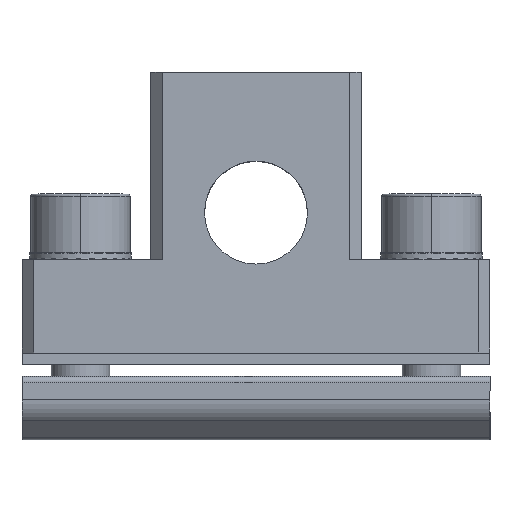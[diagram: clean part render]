
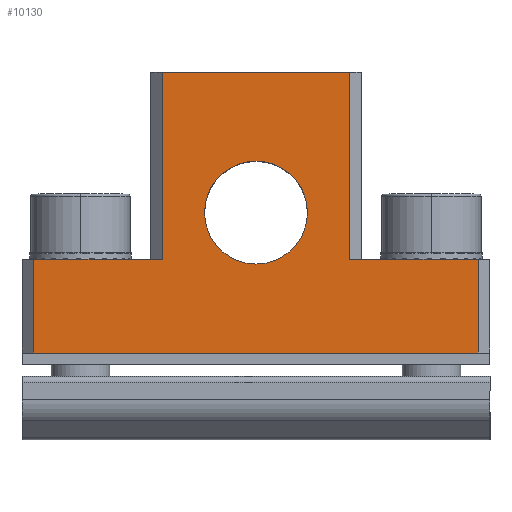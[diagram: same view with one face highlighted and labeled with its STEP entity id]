
A CAD part, top view. The second image highlights one B-rep face of the part: STEP entity #10130.
In plain terms, the highlighted planar face has unit normal (0, 0, 1).
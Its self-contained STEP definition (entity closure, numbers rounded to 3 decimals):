
#101 = ORIENTED_EDGE ( 'NONE', *, *, #17336, .T. ) ;
#133 = CARTESIAN_POINT ( 'NONE',  ( -60.559, 16.468, 7.5 ) ) ;
#525 = DIRECTION ( 'NONE',  ( -1., 0., 0. ) ) ;
#608 = CARTESIAN_POINT ( 'NONE',  ( -49.559, 28.468, 7.5 ) ) ;
#629 = CARTESIAN_POINT ( 'NONE',  ( -41.559, 28.468, 7.5 ) ) ;
#1057 = VECTOR ( 'NONE', #17490, 1000. ) ;
#1075 = VERTEX_POINT ( 'NONE', #2844 ) ;
#1933 = VERTEX_POINT ( 'NONE', #9643 ) ;
#2248 = LINE ( 'NONE', #4158, #4326 ) ;
#2492 = DIRECTION ( 'NONE',  ( 0., -1., 0. ) ) ;
#2844 = CARTESIAN_POINT ( 'NONE',  ( -22.559, 16.468, 7.5 ) ) ;
#3904 = DIRECTION ( 'NONE',  ( 1., 0., 0. ) ) ;
#3909 = DIRECTION ( 'NONE',  ( 1., 0., 0. ) ) ;
#3981 = EDGE_CURVE ( 'NONE', #8886, #22662, #13678, .T. ) ;
#4149 = DIRECTION ( 'NONE',  ( 1., 0., 0. ) ) ;
#4158 = CARTESIAN_POINT ( 'NONE',  ( -41.559, 40.468, 7.5 ) ) ;
#4161 = CARTESIAN_POINT ( 'NONE',  ( -37.159, 28.468, 7.5 ) ) ;
#4326 = VECTOR ( 'NONE', #3909, 1000. ) ;
#4342 = CIRCLE ( 'NONE', #5968, 4.4 ) ;
#4634 = LINE ( 'NONE', #608, #5226 ) ;
#5226 = VECTOR ( 'NONE', #2492, 1000. ) ;
#5408 = VECTOR ( 'NONE', #21051, 1000. ) ;
#5968 = AXIS2_PLACEMENT_3D ( 'NONE', #629, #16130, #23867 ) ;
#5972 = CARTESIAN_POINT ( 'NONE',  ( -41.559, 24.468, 7.5 ) ) ;
#6064 = DIRECTION ( 'NONE',  ( 0., 0., 1. ) ) ;
#6346 = VECTOR ( 'NONE', #525, 1000. ) ;
#7013 = CARTESIAN_POINT ( 'NONE',  ( -41.559, 24.468, 7.5 ) ) ;
#7134 = CARTESIAN_POINT ( 'NONE',  ( -33.559, 24.468, 7.5 ) ) ;
#7503 = VERTEX_POINT ( 'NONE', #12675 ) ;
#7744 = FACE_BOUND ( 'NONE', #24544, .T. ) ;
#8038 = DIRECTION ( 'NONE',  ( 0., 1., 0. ) ) ;
#8295 = DIRECTION ( 'NONE',  ( 0., 1., 0. ) ) ;
#8435 = ORIENTED_EDGE ( 'NONE', *, *, #22314, .T. ) ;
#8637 = LINE ( 'NONE', #7013, #9150 ) ;
#8886 = VERTEX_POINT ( 'NONE', #21521 ) ;
#9150 = VECTOR ( 'NONE', #16145, 1000. ) ;
#9325 = VERTEX_POINT ( 'NONE', #10272 ) ;
#9385 = AXIS2_PLACEMENT_3D ( 'NONE', #21342, #6064, #3904 ) ;
#9643 = CARTESIAN_POINT ( 'NONE',  ( -22.559, 24.468, 7.5 ) ) ;
#9898 = EDGE_CURVE ( 'NONE', #11895, #19051, #21868, .T. ) ;
#10130 = ADVANCED_FACE ( 'NONE', ( #7744, #21226 ), #11750, .T. ) ;
#10243 = EDGE_CURVE ( 'NONE', #17177, #7503, #4634, .T. ) ;
#10272 = CARTESIAN_POINT ( 'NONE',  ( -45.959, 28.468, 7.5 ) ) ;
#10701 = ORIENTED_EDGE ( 'NONE', *, *, #19295, .T. ) ;
#10933 = EDGE_CURVE ( 'NONE', #7503, #8886, #19730, .T. ) ;
#11289 = VECTOR ( 'NONE', #8038, 1000. ) ;
#11750 = PLANE ( 'NONE',  #13381 ) ;
#11847 = CARTESIAN_POINT ( 'NONE',  ( -60.559, 28.468, 7.5 ) ) ;
#11895 = VERTEX_POINT ( 'NONE', #7134 ) ;
#12402 = EDGE_CURVE ( 'NONE', #16073, #9325, #4342, .T. ) ;
#12675 = CARTESIAN_POINT ( 'NONE',  ( -49.559, 24.468, 7.5 ) ) ;
#12856 = ORIENTED_EDGE ( 'NONE', *, *, #12402, .F. ) ;
#13152 = CARTESIAN_POINT ( 'NONE',  ( -41.559, 16.468, 7.5 ) ) ;
#13381 = AXIS2_PLACEMENT_3D ( 'NONE', #133, #21341, #4149 ) ;
#13678 = LINE ( 'NONE', #11847, #1057 ) ;
#15103 = ORIENTED_EDGE ( 'NONE', *, *, #21490, .F. ) ;
#15771 = LINE ( 'NONE', #21264, #11289 ) ;
#16073 = VERTEX_POINT ( 'NONE', #4161 ) ;
#16130 = DIRECTION ( 'NONE',  ( 0., 0., 1. ) ) ;
#16145 = DIRECTION ( 'NONE',  ( -1., 0., 0. ) ) ;
#17177 = VERTEX_POINT ( 'NONE', #21330 ) ;
#17336 = EDGE_CURVE ( 'NONE', #22662, #1075, #21187, .T. ) ;
#17490 = DIRECTION ( 'NONE',  ( 0., -1., 0. ) ) ;
#18249 = ORIENTED_EDGE ( 'NONE', *, *, #3981, .T. ) ;
#19051 = VERTEX_POINT ( 'NONE', #22397 ) ;
#19195 = EDGE_LOOP ( 'NONE', ( #15103, #24818, #22506, #18249, #101, #8435, #10701, #22689 ) ) ;
#19295 = EDGE_CURVE ( 'NONE', #1933, #11895, #8637, .T. ) ;
#19730 = LINE ( 'NONE', #5972, #6346 ) ;
#19917 = VECTOR ( 'NONE', #8295, 1000. ) ;
#21051 = DIRECTION ( 'NONE',  ( 1., 0., 0. ) ) ;
#21187 = LINE ( 'NONE', #13152, #5408 ) ;
#21226 = FACE_OUTER_BOUND ( 'NONE', #19195, .T. ) ;
#21264 = CARTESIAN_POINT ( 'NONE',  ( -22.559, 28.468, 7.5 ) ) ;
#21330 = CARTESIAN_POINT ( 'NONE',  ( -49.559, 40.468, 7.5 ) ) ;
#21341 = DIRECTION ( 'NONE',  ( 0., 0., 1. ) ) ;
#21342 = CARTESIAN_POINT ( 'NONE',  ( -41.559, 28.468, 7.5 ) ) ;
#21490 = EDGE_CURVE ( 'NONE', #17177, #19051, #2248, .T. ) ;
#21521 = CARTESIAN_POINT ( 'NONE',  ( -60.559, 24.468, 7.5 ) ) ;
#21868 = LINE ( 'NONE', #23776, #19917 ) ;
#22314 = EDGE_CURVE ( 'NONE', #1075, #1933, #15771, .T. ) ;
#22397 = CARTESIAN_POINT ( 'NONE',  ( -33.559, 40.468, 7.5 ) ) ;
#22506 = ORIENTED_EDGE ( 'NONE', *, *, #10933, .T. ) ;
#22662 = VERTEX_POINT ( 'NONE', #23499 ) ;
#22689 = ORIENTED_EDGE ( 'NONE', *, *, #9898, .T. ) ;
#22744 = CIRCLE ( 'NONE', #9385, 4.4 ) ;
#23499 = CARTESIAN_POINT ( 'NONE',  ( -60.559, 16.468, 7.5 ) ) ;
#23776 = CARTESIAN_POINT ( 'NONE',  ( -33.559, 28.468, 7.5 ) ) ;
#23867 = DIRECTION ( 'NONE',  ( 1., 0., 0. ) ) ;
#23990 = EDGE_CURVE ( 'NONE', #9325, #16073, #22744, .T. ) ;
#24423 = ORIENTED_EDGE ( 'NONE', *, *, #23990, .F. ) ;
#24544 = EDGE_LOOP ( 'NONE', ( #12856, #24423 ) ) ;
#24818 = ORIENTED_EDGE ( 'NONE', *, *, #10243, .T. ) ;
